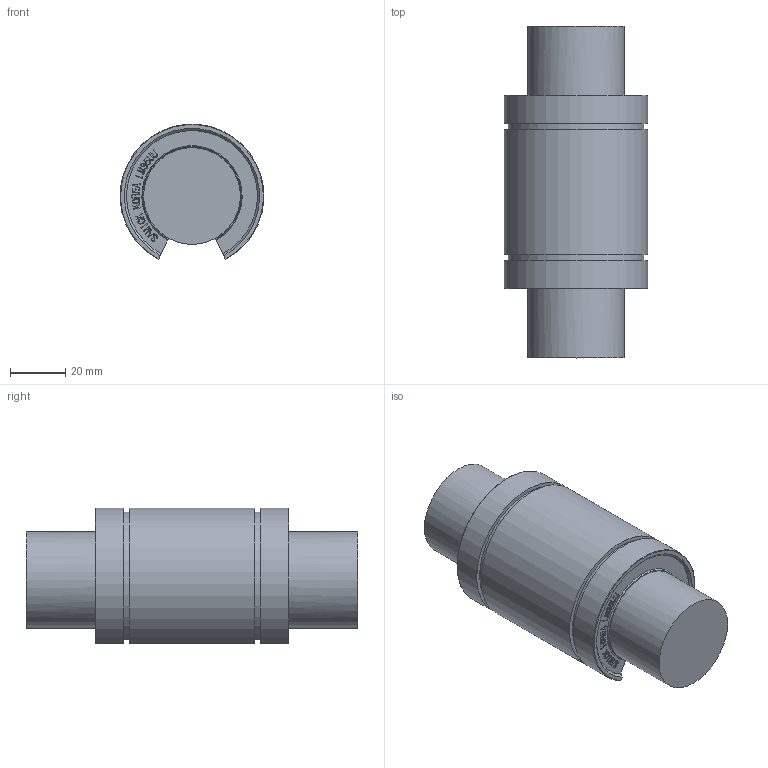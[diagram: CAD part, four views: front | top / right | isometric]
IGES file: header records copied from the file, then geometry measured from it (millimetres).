
Global section: file name: No Iges File Name specified; native system: Autodesk Inventor 2012; preprocessor: AutoDesk Inventor Iges Exporter R2012; author: user2; date: 20130206.154759; units: millimetre
Bounding box: 51.91 x 120 x 48.92 mm (x, y, z)
Volume: 181857.5 mm3; surface area: 22499.6 mm2
Topology: 1 solids, 1 shells, 878 faces, 2502 edges, 1668 vertices
Faces by surface type: bspline 636, plane 228, cylinder 6, revolution 4, cone 2, torus 2
Full cylindrical faces by diameter (mm): 35 x1
